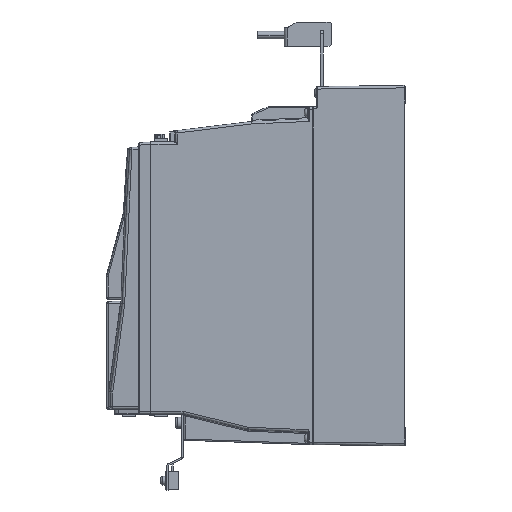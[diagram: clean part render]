
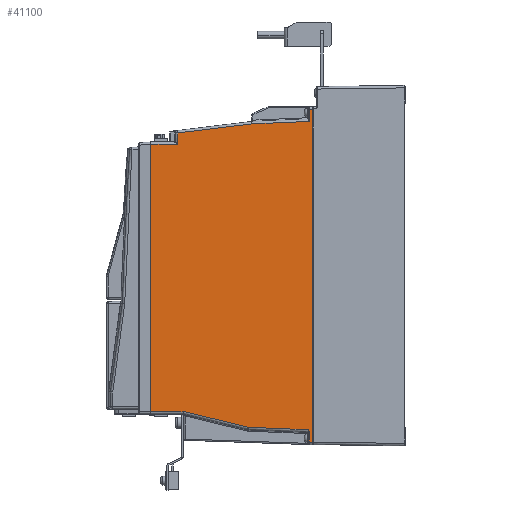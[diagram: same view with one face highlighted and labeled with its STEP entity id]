
A CAD part, left-side view. The second image highlights one B-rep face of the part: STEP entity #41100.
In plain terms, the highlighted planar face has unit normal (-1, 0, 0).
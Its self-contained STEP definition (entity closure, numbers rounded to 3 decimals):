
#812 = LINE ( 'NONE', #4870, #16977 ) ;
#1958 = CARTESIAN_POINT ( 'NONE',  ( -64., 182.5, -289. ) ) ;
#2199 = ORIENTED_EDGE ( 'NONE', *, *, #49880, .T. ) ;
#2512 = CARTESIAN_POINT ( 'NONE',  ( -64., 77.016, -277.606 ) ) ;
#2927 = ORIENTED_EDGE ( 'NONE', *, *, #45981, .T. ) ;
#3272 = DIRECTION ( 'NONE',  ( 0., -1., 0. ) ) ;
#3907 = LINE ( 'NONE', #8216, #12117 ) ;
#4086 = EDGE_CURVE ( 'NONE', #47266, #13577, #3907, .T. ) ;
#4449 = VECTOR ( 'NONE', #43687, 1000. ) ;
#4870 = CARTESIAN_POINT ( 'NONE',  ( -64., 232.631, -44.384 ) ) ;
#4950 = DIRECTION ( 'NONE',  ( 0., 0., -1. ) ) ;
#5082 = CARTESIAN_POINT ( 'NONE',  ( -64., 76.5, -289. ) ) ;
#5318 = CARTESIAN_POINT ( 'NONE',  ( -64., 182.5, -47.5 ) ) ;
#6250 = VERTEX_POINT ( 'NONE', #15318 ) ;
#6956 = LINE ( 'NONE', #23515, #43155 ) ;
#7067 = CARTESIAN_POINT ( 'NONE',  ( -64., 202.8, -262.5 ) ) ;
#7636 = EDGE_CURVE ( 'NONE', #45226, #32017, #36233, .T. ) ;
#7884 = VERTEX_POINT ( 'NONE', #33780 ) ;
#8216 = CARTESIAN_POINT ( 'NONE',  ( -64., 76.92, -277.036 ) ) ;
#8643 = CARTESIAN_POINT ( 'NONE',  ( -64., 202.8, -289. ) ) ;
#9501 = ORIENTED_EDGE ( 'NONE', *, *, #29041, .T. ) ;
#10631 = CARTESIAN_POINT ( 'NONE',  ( -64., 182.5, -38.271 ) ) ;
#10981 = ORIENTED_EDGE ( 'NONE', *, *, #44954, .T. ) ;
#12117 = VECTOR ( 'NONE', #53284, 1000. ) ;
#12564 = EDGE_CURVE ( 'NONE', #18322, #40329, #34426, .T. ) ;
#13258 = PLANE ( 'NONE',  #51197 ) ;
#13577 = VERTEX_POINT ( 'NONE', #25305 ) ;
#13775 = DIRECTION ( 'NONE',  ( 0., 0., -1. ) ) ;
#14349 = VERTEX_POINT ( 'NONE', #49204 ) ;
#14444 = CARTESIAN_POINT ( 'NONE',  ( -64., 76.5, -278.822 ) ) ;
#15318 = CARTESIAN_POINT ( 'NONE',  ( -64., 76.5, -279.014 ) ) ;
#15441 = DIRECTION ( 'NONE',  ( 0., 0., 1. ) ) ;
#15744 = ORIENTED_EDGE ( 'NONE', *, *, #46495, .T. ) ;
#15979 = CARTESIAN_POINT ( 'NONE',  ( -64., 76.5, -287. ) ) ;
#16510 = LINE ( 'NONE', #37154, #36709 ) ;
#16977 = VECTOR ( 'NONE', #29560, 1000. ) ;
#17703 = CARTESIAN_POINT ( 'NONE',  ( -64., 204.2, -47.5 ) ) ;
#17981 = CARTESIAN_POINT ( 'NONE',  ( -64., 76.652, -278.27 ) ) ;
#18052 = B_SPLINE_CURVE_WITH_KNOTS ( 'NONE', 3,
 ( #51631, #47562, #2512, #35080, #17981, #50828, #14444, #51096 ),
 .UNSPECIFIED., .F., .F.,
 ( 4, 2, 2, 4 ),
 ( 0., 0.001, 0.002, 0.002 ),
 .UNSPECIFIED. ) ;
#18112 = ORIENTED_EDGE ( 'NONE', *, *, #42356, .T. ) ;
#18322 = VERTEX_POINT ( 'NONE', #34403 ) ;
#19459 = VECTOR ( 'NONE', #3272, 1000. ) ;
#19909 = ORIENTED_EDGE ( 'NONE', *, *, #29647, .T. ) ;
#20580 = CARTESIAN_POINT ( 'NONE',  ( -64., 204.2, -262.5 ) ) ;
#21556 = LINE ( 'NONE', #29991, #25677 ) ;
#22099 = DIRECTION ( 'NONE',  ( 0., 1., 0. ) ) ;
#22750 = ORIENTED_EDGE ( 'NONE', *, *, #27658, .T. ) ;
#23515 = CARTESIAN_POINT ( 'NONE',  ( -64., 125.536, -275.09 ) ) ;
#23631 = LINE ( 'NONE', #7067, #19459 ) ;
#24436 = VECTOR ( 'NONE', #13775, 1000. ) ;
#24638 = CARTESIAN_POINT ( 'NONE',  ( -64., 177.407, -262.5 ) ) ;
#25106 = EDGE_CURVE ( 'NONE', #47040, #47266, #6956, .T. ) ;
#25305 = CARTESIAN_POINT ( 'NONE',  ( -64., 77.5, -277.013 ) ) ;
#25677 = VECTOR ( 'NONE', #22099, 1000. ) ;
#27658 = EDGE_CURVE ( 'NONE', #6250, #45544, #41294, .T. ) ;
#27828 = CARTESIAN_POINT ( 'NONE',  ( -64., 125.725, -275.044 ) ) ;
#28204 = ORIENTED_EDGE ( 'NONE', *, *, #48665, .T. ) ;
#28326 = VERTEX_POINT ( 'NONE', #10631 ) ;
#28688 = CARTESIAN_POINT ( 'NONE',  ( -64., 76.5, -19. ) ) ;
#29041 = EDGE_CURVE ( 'NONE', #28326, #45226, #51338, .T. ) ;
#29393 = CARTESIAN_POINT ( 'NONE',  ( -64., 204.2, -262.5 ) ) ;
#29560 = DIRECTION ( 'NONE',  ( 0., 0.993, -0.121 ) ) ;
#29647 = EDGE_CURVE ( 'NONE', #7884, #14349, #47467, .T. ) ;
#29991 = CARTESIAN_POINT ( 'NONE',  ( -64., 202.8, -19. ) ) ;
#30037 = DIRECTION ( 'NONE',  ( 0., 0., -1. ) ) ;
#30092 = DIRECTION ( 'NONE',  ( 0., 0., -1. ) ) ;
#30921 = CARTESIAN_POINT ( 'NONE',  ( -64., 213.846, -34.952 ) ) ;
#32017 = VERTEX_POINT ( 'NONE', #17703 ) ;
#32660 = ORIENTED_EDGE ( 'NONE', *, *, #7636, .T. ) ;
#33780 = CARTESIAN_POINT ( 'NONE',  ( -64., 76.5, -28.98 ) ) ;
#33959 = CARTESIAN_POINT ( 'NONE',  ( -64., 76.5, -289. ) ) ;
#34403 = CARTESIAN_POINT ( 'NONE',  ( -64., 73.67, -19. ) ) ;
#34426 = LINE ( 'NONE', #42318, #24436 ) ;
#35080 = CARTESIAN_POINT ( 'NONE',  ( -64., 76.733, -278.099 ) ) ;
#35699 = CARTESIAN_POINT ( 'NONE',  ( -64., 202.8, -47.5 ) ) ;
#36098 = VERTEX_POINT ( 'NONE', #29393 ) ;
#36233 = LINE ( 'NONE', #35699, #38480 ) ;
#36709 = VECTOR ( 'NONE', #37970, 1000. ) ;
#37154 = CARTESIAN_POINT ( 'NONE',  ( -64., 202.8, -287. ) ) ;
#37970 = DIRECTION ( 'NONE',  ( 0., -1., 0. ) ) ;
#38440 = LINE ( 'NONE', #5082, #48069 ) ;
#38480 = VECTOR ( 'NONE', #52255, 1000. ) ;
#39893 = VECTOR ( 'NONE', #15441, 1000. ) ;
#39915 = ORIENTED_EDGE ( 'NONE', *, *, #40905, .F. ) ;
#40329 = VERTEX_POINT ( 'NONE', #41922 ) ;
#40905 = EDGE_CURVE ( 'NONE', #36098, #32017, #49375, .T. ) ;
#41100 = ADVANCED_FACE ( 'NONE', ( #46376 ), #13258, .F. ) ;
#41104 = ORIENTED_EDGE ( 'NONE', *, *, #4086, .T. ) ;
#41294 = LINE ( 'NONE', #33959, #48502 ) ;
#41324 = VERTEX_POINT ( 'NONE', #28688 ) ;
#41843 = DIRECTION ( 'NONE',  ( 0., 0., -1. ) ) ;
#41922 = CARTESIAN_POINT ( 'NONE',  ( -64., 73.67, -287. ) ) ;
#42318 = CARTESIAN_POINT ( 'NONE',  ( -64., 73.67, -19. ) ) ;
#42348 = ORIENTED_EDGE ( 'NONE', *, *, #12564, .F. ) ;
#42356 = EDGE_CURVE ( 'NONE', #13577, #6250, #18052, .T. ) ;
#43155 = VECTOR ( 'NONE', #48203, 1000. ) ;
#43549 = VECTOR ( 'NONE', #4950, 1000. ) ;
#43687 = DIRECTION ( 'NONE',  ( 0., 0.999, -0.043 ) ) ;
#44936 = ORIENTED_EDGE ( 'NONE', *, *, #25106, .T. ) ;
#44954 = EDGE_CURVE ( 'NONE', #45544, #40329, #16510, .T. ) ;
#45226 = VERTEX_POINT ( 'NONE', #5318 ) ;
#45532 = EDGE_LOOP ( 'NONE', ( #10981, #42348, #28204, #2927, #19909, #2199, #9501, #32660, #39915, #15744, #44936, #41104, #18112, #22750 ) ) ;
#45544 = VERTEX_POINT ( 'NONE', #15979 ) ;
#45851 = DIRECTION ( 'NONE',  ( 1., 0., 0. ) ) ;
#45981 = EDGE_CURVE ( 'NONE', #41324, #7884, #38440, .T. ) ;
#46376 = FACE_OUTER_BOUND ( 'NONE', #45532, .T. ) ;
#46495 = EDGE_CURVE ( 'NONE', #36098, #47040, #23631, .T. ) ;
#47040 = VERTEX_POINT ( 'NONE', #24638 ) ;
#47266 = VERTEX_POINT ( 'NONE', #27828 ) ;
#47467 = LINE ( 'NONE', #30921, #4449 ) ;
#47562 = CARTESIAN_POINT ( 'NONE',  ( -64., 77.259, -277.308 ) ) ;
#48069 = VECTOR ( 'NONE', #30037, 1000. ) ;
#48203 = DIRECTION ( 'NONE',  ( 0., -0.972, -0.236 ) ) ;
#48502 = VECTOR ( 'NONE', #41843, 1000. ) ;
#48665 = EDGE_CURVE ( 'NONE', #18322, #41324, #21556, .T. ) ;
#49204 = CARTESIAN_POINT ( 'NONE',  ( -64., 122.835, -30.995 ) ) ;
#49375 = LINE ( 'NONE', #20580, #39893 ) ;
#49880 = EDGE_CURVE ( 'NONE', #14349, #28326, #812, .T. ) ;
#50828 = CARTESIAN_POINT ( 'NONE',  ( -64., 76.535, -278.634 ) ) ;
#51096 = CARTESIAN_POINT ( 'NONE',  ( -64., 76.5, -279.014 ) ) ;
#51197 = AXIS2_PLACEMENT_3D ( 'NONE', #8643, #45851, #30092 ) ;
#51338 = LINE ( 'NONE', #1958, #43549 ) ;
#51631 = CARTESIAN_POINT ( 'NONE',  ( -64., 77.5, -277.013 ) ) ;
#52255 = DIRECTION ( 'NONE',  ( 0., 1., 0. ) ) ;
#53284 = DIRECTION ( 'NONE',  ( 0., -0.999, -0.041 ) ) ;
